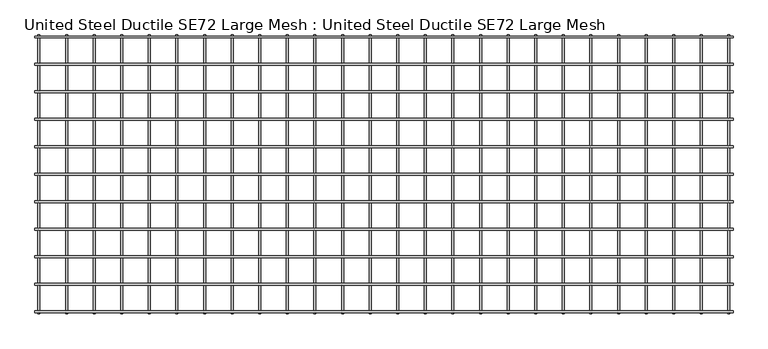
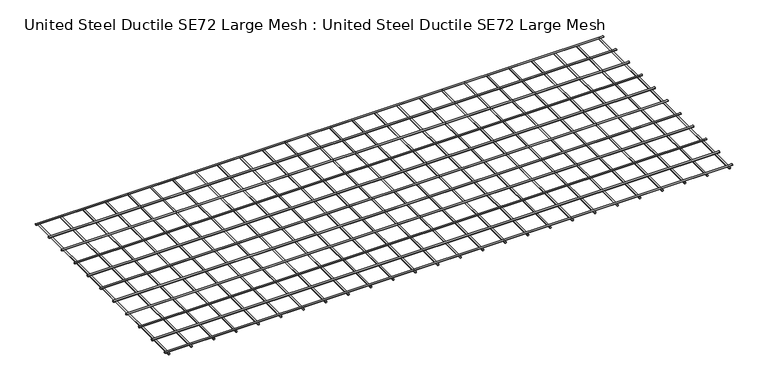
"""IFC4 building model written with IfcOpenShell, lengths in millimetres: proxy geometry, United Steel Ductile SE72 Large Mesh : United Steel Ductile SE72 Large Mesh."""

from ifc_helpers import new_model, si_unit, point, frame, frame_2d, origin, place, context, project, spatial, circle_curve, trimmed, segment, composite_curve, outline, extrude, source, transform, mapped, element, save


def united_steel_ductile_se72_large_mesh_united_steel_ductile_2a34dac6(model_context):
    return source(origin(), model_context, "Body", "SweptSolid", [
        extrude(outline(composite_curve([segment(trimmed(circle_curve(frame_2d((-2410.0, 20.9675855)), 7.0), [point((-2417.0, 20.9675855))], [point((-2403.0, 20.9675855))], False, "CARTESIAN"), True, "CONTINUOUS"), segment(trimmed(circle_curve(frame_2d((-2410.0, 20.9675855)), 7.0), [point((-2403.0, 20.9675855))], [point((-2417.0, 20.9675855))], False, "CARTESIAN"), True, "CONTINUOUS")], self_intersect=False)), frame((-6030.0, 0.0, 0.0), z_axis=(1.0, 0.0, 0.0), x_axis=(0.0, 1.0, 0.0)), (0.0, 0.0, 1.0), 5060.0),
        extrude(outline(composite_curve([segment(trimmed(circle_curve(frame_2d((-2211.0, 20.9675855)), 7.0), [point((-2218.0, 20.9675855))], [point((-2204.0, 20.9675855))], False, "CARTESIAN"), True, "CONTINUOUS"), segment(trimmed(circle_curve(frame_2d((-2211.0, 20.9675855)), 7.0), [point((-2204.0, 20.9675855))], [point((-2218.0, 20.9675855))], False, "CARTESIAN"), True, "CONTINUOUS")], self_intersect=False)), frame((-6030.0, 0.0, 0.0), z_axis=(1.0, 0.0, 0.0), x_axis=(0.0, 1.0, 0.0)), (0.0, 0.0, 1.0), 5060.0),
        extrude(outline(composite_curve([segment(trimmed(circle_curve(frame_2d((-2012.0, 20.9675855)), 7.0), [point((-2019.0, 20.9675855))], [point((-2005.0, 20.9675855))], False, "CARTESIAN"), True, "CONTINUOUS"), segment(trimmed(circle_curve(frame_2d((-2012.0, 20.9675855)), 7.0), [point((-2005.0, 20.9675855))], [point((-2019.0, 20.9675855))], False, "CARTESIAN"), True, "CONTINUOUS")], self_intersect=False)), frame((-6030.0, 0.0, 0.0), z_axis=(1.0, 0.0, 0.0), x_axis=(0.0, 1.0, 0.0)), (0.0, 0.0, 1.0), 5060.0),
        extrude(outline(composite_curve([segment(trimmed(circle_curve(frame_2d((-1813.0, 20.9675855)), 7.0), [point((-1820.0, 20.9675855))], [point((-1806.0, 20.9675855))], False, "CARTESIAN"), True, "CONTINUOUS"), segment(trimmed(circle_curve(frame_2d((-1813.0, 20.9675855)), 7.0), [point((-1806.0, 20.9675855))], [point((-1820.0, 20.9675855))], False, "CARTESIAN"), True, "CONTINUOUS")], self_intersect=False)), frame((-6030.0, 0.0, 0.0), z_axis=(1.0, 0.0, 0.0), x_axis=(0.0, 1.0, 0.0)), (0.0, 0.0, 1.0), 5060.0),
        extrude(outline(composite_curve([segment(trimmed(circle_curve(frame_2d((-1614.0, 20.9675855)), 7.0), [point((-1621.0, 20.9675855))], [point((-1607.0, 20.9675855))], False, "CARTESIAN"), True, "CONTINUOUS"), segment(trimmed(circle_curve(frame_2d((-1614.0, 20.9675855)), 7.0), [point((-1607.0, 20.9675855))], [point((-1621.0, 20.9675855))], False, "CARTESIAN"), True, "CONTINUOUS")], self_intersect=False)), frame((-6030.0, 0.0, 0.0), z_axis=(1.0, 0.0, 0.0), x_axis=(0.0, 1.0, 0.0)), (0.0, 0.0, 1.0), 5060.0),
        extrude(outline(composite_curve([segment(trimmed(circle_curve(frame_2d((-1415.0, 20.9675855)), 7.0), [point((-1422.0, 20.9675855))], [point((-1408.0, 20.9675855))], False, "CARTESIAN"), True, "CONTINUOUS"), segment(trimmed(circle_curve(frame_2d((-1415.0, 20.9675855)), 7.0), [point((-1408.0, 20.9675855))], [point((-1422.0, 20.9675855))], False, "CARTESIAN"), True, "CONTINUOUS")], self_intersect=False)), frame((-6030.0, 0.0, 0.0), z_axis=(1.0, 0.0, 0.0), x_axis=(0.0, 1.0, 0.0)), (0.0, 0.0, 1.0), 5060.0),
        extrude(outline(composite_curve([segment(trimmed(circle_curve(frame_2d((-1216.0, 20.9675855)), 7.0), [point((-1223.0, 20.9675855))], [point((-1209.0, 20.9675855))], False, "CARTESIAN"), True, "CONTINUOUS"), segment(trimmed(circle_curve(frame_2d((-1216.0, 20.9675855)), 7.0), [point((-1209.0, 20.9675855))], [point((-1223.0, 20.9675855))], False, "CARTESIAN"), True, "CONTINUOUS")], self_intersect=False)), frame((-6030.0, 0.0, 0.0), z_axis=(1.0, 0.0, 0.0), x_axis=(0.0, 1.0, 0.0)), (0.0, 0.0, 1.0), 5060.0),
        extrude(outline(composite_curve([segment(trimmed(circle_curve(frame_2d((-1017.0, 20.9675855)), 7.0), [point((-1024.0, 20.9675855))], [point((-1010.0, 20.9675855))], False, "CARTESIAN"), True, "CONTINUOUS"), segment(trimmed(circle_curve(frame_2d((-1017.0, 20.9675855)), 7.0), [point((-1010.0, 20.9675855))], [point((-1024.0, 20.9675855))], False, "CARTESIAN"), True, "CONTINUOUS")], self_intersect=False)), frame((-6030.0, 0.0, 0.0), z_axis=(1.0, 0.0, 0.0), x_axis=(0.0, 1.0, 0.0)), (0.0, 0.0, 1.0), 5060.0),
        extrude(outline(composite_curve([segment(trimmed(circle_curve(frame_2d((-818.0, 20.9675855)), 7.0), [point((-825.0, 20.9675855))], [point((-811.0, 20.9675855))], False, "CARTESIAN"), True, "CONTINUOUS"), segment(trimmed(circle_curve(frame_2d((-818.0, 20.9675855)), 7.0), [point((-811.0, 20.9675855))], [point((-825.0, 20.9675855))], False, "CARTESIAN"), True, "CONTINUOUS")], self_intersect=False)), frame((-6030.0, 0.0, 0.0), z_axis=(1.0, 0.0, 0.0), x_axis=(0.0, 1.0, 0.0)), (0.0, 0.0, 1.0), 5060.0),
        extrude(outline(composite_curve([segment(trimmed(circle_curve(frame_2d((-619.0, 20.9675855)), 7.0), [point((-626.0, 20.9675855))], [point((-612.0, 20.9675855))], False, "CARTESIAN"), True, "CONTINUOUS"), segment(trimmed(circle_curve(frame_2d((-619.0, 20.9675855)), 7.0), [point((-612.0, 20.9675855))], [point((-626.0, 20.9675855))], False, "CARTESIAN"), True, "CONTINUOUS")], self_intersect=False)), frame((-6030.0, 0.0, 0.0), z_axis=(1.0, 0.0, 0.0), x_axis=(0.0, 1.0, 0.0)), (0.0, 0.0, 1.0), 5060.0),
        extrude(outline(composite_curve([segment(trimmed(circle_curve(frame_2d((6.9833072, -6000.6447114)), 7.0), [point((6.9833072, -6007.6447114))], [point((6.9833072, -5993.6447114))], False, "CARTESIAN"), True, "CONTINUOUS"), segment(trimmed(circle_curve(frame_2d((6.9833072, -6000.6447114)), 7.0), [point((6.9833072, -5993.6447114))], [point((6.9833072, -6007.6447114))], False, "CARTESIAN"), True, "CONTINUOUS")], self_intersect=False)), frame((0.0, -2425.0, 0.0), z_axis=(0.0, 1.0, 0.0), x_axis=(0.0, 0.0, 1.0)), (0.0, 0.0, 1.0), 2020.0),
        extrude(outline(composite_curve([segment(trimmed(circle_curve(frame_2d((6.9833072, -5800.6178484)), 7.0), [point((6.9833072, -5807.6178484))], [point((6.9833072, -5793.6178484))], False, "CARTESIAN"), True, "CONTINUOUS"), segment(trimmed(circle_curve(frame_2d((6.9833072, -5800.6178484)), 7.0), [point((6.9833072, -5793.6178484))], [point((6.9833072, -5807.6178484))], False, "CARTESIAN"), True, "CONTINUOUS")], self_intersect=False)), frame((0.0, -2425.0, 0.0), z_axis=(0.0, 1.0, 0.0), x_axis=(0.0, 0.0, 1.0)), (0.0, 0.0, 1.0), 2020.0),
        extrude(outline(composite_curve([segment(trimmed(circle_curve(frame_2d((6.9833072, -5600.5909854)), 7.0), [point((6.9833072, -5607.5909854))], [point((6.9833072, -5593.5909854))], False, "CARTESIAN"), True, "CONTINUOUS"), segment(trimmed(circle_curve(frame_2d((6.9833072, -5600.5909854)), 7.0), [point((6.9833072, -5593.5909854))], [point((6.9833072, -5607.5909854))], False, "CARTESIAN"), True, "CONTINUOUS")], self_intersect=False)), frame((0.0, -2425.0, 0.0), z_axis=(0.0, 1.0, 0.0), x_axis=(0.0, 0.0, 1.0)), (0.0, 0.0, 1.0), 2020.0),
        extrude(outline(composite_curve([segment(trimmed(circle_curve(frame_2d((6.9833072, -5400.5641224)), 7.0), [point((6.9833072, -5407.5641224))], [point((6.9833072, -5393.5641224))], False, "CARTESIAN"), True, "CONTINUOUS"), segment(trimmed(circle_curve(frame_2d((6.9833072, -5400.5641224)), 7.0), [point((6.9833072, -5393.5641224))], [point((6.9833072, -5407.5641224))], False, "CARTESIAN"), True, "CONTINUOUS")], self_intersect=False)), frame((0.0, -2425.0, 0.0), z_axis=(0.0, 1.0, 0.0), x_axis=(0.0, 0.0, 1.0)), (0.0, 0.0, 1.0), 2020.0),
        extrude(outline(composite_curve([segment(trimmed(circle_curve(frame_2d((6.9833072, -5200.5372595)), 7.0), [point((6.9833072, -5207.5372595))], [point((6.9833072, -5193.5372595))], False, "CARTESIAN"), True, "CONTINUOUS"), segment(trimmed(circle_curve(frame_2d((6.9833072, -5200.5372595)), 7.0), [point((6.9833072, -5193.5372595))], [point((6.9833072, -5207.5372595))], False, "CARTESIAN"), True, "CONTINUOUS")], self_intersect=False)), frame((0.0, -2425.0, 0.0), z_axis=(0.0, 1.0, 0.0), x_axis=(0.0, 0.0, 1.0)), (0.0, 0.0, 1.0), 2020.0),
        extrude(outline(composite_curve([segment(trimmed(circle_curve(frame_2d((6.9833072, -5000.5103965)), 7.0), [point((6.9833072, -5007.5103965))], [point((6.9833072, -4993.5103965))], False, "CARTESIAN"), True, "CONTINUOUS"), segment(trimmed(circle_curve(frame_2d((6.9833072, -5000.5103965)), 7.0), [point((6.9833072, -4993.5103965))], [point((6.9833072, -5007.5103965))], False, "CARTESIAN"), True, "CONTINUOUS")], self_intersect=False)), frame((0.0, -2425.0, 0.0), z_axis=(0.0, 1.0, 0.0), x_axis=(0.0, 0.0, 1.0)), (0.0, 0.0, 1.0), 2020.0),
        extrude(outline(composite_curve([segment(trimmed(circle_curve(frame_2d((6.9833072, -4800.4835335)), 7.0), [point((6.9833072, -4807.4835335))], [point((6.9833072, -4793.4835335))], False, "CARTESIAN"), True, "CONTINUOUS"), segment(trimmed(circle_curve(frame_2d((6.9833072, -4800.4835335)), 7.0), [point((6.9833072, -4793.4835335))], [point((6.9833072, -4807.4835335))], False, "CARTESIAN"), True, "CONTINUOUS")], self_intersect=False)), frame((0.0, -2425.0, 0.0), z_axis=(0.0, 1.0, 0.0), x_axis=(0.0, 0.0, 1.0)), (0.0, 0.0, 1.0), 2020.0),
        extrude(outline(composite_curve([segment(trimmed(circle_curve(frame_2d((6.9833072, -4600.4566705)), 7.0), [point((6.9833072, -4607.4566705))], [point((6.9833072, -4593.4566705))], False, "CARTESIAN"), True, "CONTINUOUS"), segment(trimmed(circle_curve(frame_2d((6.9833072, -4600.4566705)), 7.0), [point((6.9833072, -4593.4566705))], [point((6.9833072, -4607.4566705))], False, "CARTESIAN"), True, "CONTINUOUS")], self_intersect=False)), frame((0.0, -2425.0, 0.0), z_axis=(0.0, 1.0, 0.0), x_axis=(0.0, 0.0, 1.0)), (0.0, 0.0, 1.0), 2020.0),
        extrude(outline(composite_curve([segment(trimmed(circle_curve(frame_2d((6.9833072, -4400.4298076)), 7.0), [point((6.9833072, -4407.4298076))], [point((6.9833072, -4393.4298076))], False, "CARTESIAN"), True, "CONTINUOUS"), segment(trimmed(circle_curve(frame_2d((6.9833072, -4400.4298076)), 7.0), [point((6.9833072, -4393.4298076))], [point((6.9833072, -4407.4298076))], False, "CARTESIAN"), True, "CONTINUOUS")], self_intersect=False)), frame((0.0, -2425.0, 0.0), z_axis=(0.0, 1.0, 0.0), x_axis=(0.0, 0.0, 1.0)), (0.0, 0.0, 1.0), 2020.0),
        extrude(outline(composite_curve([segment(trimmed(circle_curve(frame_2d((6.9833072, -4200.4029446)), 7.0), [point((6.9833072, -4207.4029446))], [point((6.9833072, -4193.4029446))], False, "CARTESIAN"), True, "CONTINUOUS"), segment(trimmed(circle_curve(frame_2d((6.9833072, -4200.4029446)), 7.0), [point((6.9833072, -4193.4029446))], [point((6.9833072, -4207.4029446))], False, "CARTESIAN"), True, "CONTINUOUS")], self_intersect=False)), frame((0.0, -2425.0, 0.0), z_axis=(0.0, 1.0, 0.0), x_axis=(0.0, 0.0, 1.0)), (0.0, 0.0, 1.0), 2020.0),
        extrude(outline(composite_curve([segment(trimmed(circle_curve(frame_2d((6.9833072, -4000.3760816)), 7.0), [point((6.9833072, -4007.3760816))], [point((6.9833072, -3993.3760816))], False, "CARTESIAN"), True, "CONTINUOUS"), segment(trimmed(circle_curve(frame_2d((6.9833072, -4000.3760816)), 7.0), [point((6.9833072, -3993.3760816))], [point((6.9833072, -4007.3760816))], False, "CARTESIAN"), True, "CONTINUOUS")], self_intersect=False)), frame((0.0, -2425.0, 0.0), z_axis=(0.0, 1.0, 0.0), x_axis=(0.0, 0.0, 1.0)), (0.0, 0.0, 1.0), 2020.0),
        extrude(outline(composite_curve([segment(trimmed(circle_curve(frame_2d((6.9833072, -3800.3492187)), 7.0), [point((6.9833072, -3807.3492187))], [point((6.9833072, -3793.3492187))], False, "CARTESIAN"), True, "CONTINUOUS"), segment(trimmed(circle_curve(frame_2d((6.9833072, -3800.3492187)), 7.0), [point((6.9833072, -3793.3492187))], [point((6.9833072, -3807.3492187))], False, "CARTESIAN"), True, "CONTINUOUS")], self_intersect=False)), frame((0.0, -2425.0, 0.0), z_axis=(0.0, 1.0, 0.0), x_axis=(0.0, 0.0, 1.0)), (0.0, 0.0, 1.0), 2020.0),
        extrude(outline(composite_curve([segment(trimmed(circle_curve(frame_2d((6.9833072, -3600.3223557)), 7.0), [point((6.9833072, -3607.3223557))], [point((6.9833072, -3593.3223557))], False, "CARTESIAN"), True, "CONTINUOUS"), segment(trimmed(circle_curve(frame_2d((6.9833072, -3600.3223557)), 7.0), [point((6.9833072, -3593.3223557))], [point((6.9833072, -3607.3223557))], False, "CARTESIAN"), True, "CONTINUOUS")], self_intersect=False)), frame((0.0, -2425.0, 0.0), z_axis=(0.0, 1.0, 0.0), x_axis=(0.0, 0.0, 1.0)), (0.0, 0.0, 1.0), 2020.0),
        extrude(outline(composite_curve([segment(trimmed(circle_curve(frame_2d((6.9833072, -3400.2954927)), 7.0), [point((6.9833072, -3407.2954927))], [point((6.9833072, -3393.2954927))], False, "CARTESIAN"), True, "CONTINUOUS"), segment(trimmed(circle_curve(frame_2d((6.9833072, -3400.2954927)), 7.0), [point((6.9833072, -3393.2954927))], [point((6.9833072, -3407.2954927))], False, "CARTESIAN"), True, "CONTINUOUS")], self_intersect=False)), frame((0.0, -2425.0, 0.0), z_axis=(0.0, 1.0, 0.0), x_axis=(0.0, 0.0, 1.0)), (0.0, 0.0, 1.0), 2020.0),
        extrude(outline(composite_curve([segment(trimmed(circle_curve(frame_2d((6.9833072, -3200.2686297)), 7.0), [point((6.9833072, -3207.2686297))], [point((6.9833072, -3193.2686297))], False, "CARTESIAN"), True, "CONTINUOUS"), segment(trimmed(circle_curve(frame_2d((6.9833072, -3200.2686297)), 7.0), [point((6.9833072, -3193.2686297))], [point((6.9833072, -3207.2686297))], False, "CARTESIAN"), True, "CONTINUOUS")], self_intersect=False)), frame((0.0, -2425.0, 0.0), z_axis=(0.0, 1.0, 0.0), x_axis=(0.0, 0.0, 1.0)), (0.0, 0.0, 1.0), 2020.0),
        extrude(outline(composite_curve([segment(trimmed(circle_curve(frame_2d((6.9833072, -3000.2417668)), 7.0), [point((6.9833072, -3007.2417668))], [point((6.9833072, -2993.2417668))], False, "CARTESIAN"), True, "CONTINUOUS"), segment(trimmed(circle_curve(frame_2d((6.9833072, -3000.2417668)), 7.0), [point((6.9833072, -2993.2417668))], [point((6.9833072, -3007.2417668))], False, "CARTESIAN"), True, "CONTINUOUS")], self_intersect=False)), frame((0.0, -2425.0, 0.0), z_axis=(0.0, 1.0, 0.0), x_axis=(0.0, 0.0, 1.0)), (0.0, 0.0, 1.0), 2020.0),
        extrude(outline(composite_curve([segment(trimmed(circle_curve(frame_2d((6.9833072, -2800.2149038)), 7.0), [point((6.9833072, -2807.2149038))], [point((6.9833072, -2793.2149038))], False, "CARTESIAN"), True, "CONTINUOUS"), segment(trimmed(circle_curve(frame_2d((6.9833072, -2800.2149038)), 7.0), [point((6.9833072, -2793.2149038))], [point((6.9833072, -2807.2149038))], False, "CARTESIAN"), True, "CONTINUOUS")], self_intersect=False)), frame((0.0, -2425.0, 0.0), z_axis=(0.0, 1.0, 0.0), x_axis=(0.0, 0.0, 1.0)), (0.0, 0.0, 1.0), 2020.0),
        extrude(outline(composite_curve([segment(trimmed(circle_curve(frame_2d((6.9833072, -2600.1880408)), 7.0), [point((6.9833072, -2607.1880408))], [point((6.9833072, -2593.1880408))], False, "CARTESIAN"), True, "CONTINUOUS"), segment(trimmed(circle_curve(frame_2d((6.9833072, -2600.1880408)), 7.0), [point((6.9833072, -2593.1880408))], [point((6.9833072, -2607.1880408))], False, "CARTESIAN"), True, "CONTINUOUS")], self_intersect=False)), frame((0.0, -2425.0, 0.0), z_axis=(0.0, 1.0, 0.0), x_axis=(0.0, 0.0, 1.0)), (0.0, 0.0, 1.0), 2020.0),
        extrude(outline(composite_curve([segment(trimmed(circle_curve(frame_2d((6.9833072, -2400.1611778)), 7.0), [point((6.9833072, -2407.1611778))], [point((6.9833072, -2393.1611778))], False, "CARTESIAN"), True, "CONTINUOUS"), segment(trimmed(circle_curve(frame_2d((6.9833072, -2400.1611778)), 7.0), [point((6.9833072, -2393.1611778))], [point((6.9833072, -2407.1611778))], False, "CARTESIAN"), True, "CONTINUOUS")], self_intersect=False)), frame((0.0, -2425.0, 0.0), z_axis=(0.0, 1.0, 0.0), x_axis=(0.0, 0.0, 1.0)), (0.0, 0.0, 1.0), 2020.0),
        extrude(outline(composite_curve([segment(trimmed(circle_curve(frame_2d((6.9833072, -2200.1343149)), 7.0), [point((6.9833072, -2207.1343149))], [point((6.9833072, -2193.1343149))], False, "CARTESIAN"), True, "CONTINUOUS"), segment(trimmed(circle_curve(frame_2d((6.9833072, -2200.1343149)), 7.0), [point((6.9833072, -2193.1343149))], [point((6.9833072, -2207.1343149))], False, "CARTESIAN"), True, "CONTINUOUS")], self_intersect=False)), frame((0.0, -2425.0, 0.0), z_axis=(0.0, 1.0, 0.0), x_axis=(0.0, 0.0, 1.0)), (0.0, 0.0, 1.0), 2020.0),
        extrude(outline(composite_curve([segment(trimmed(circle_curve(frame_2d((6.9833072, -2000.1074519)), 7.0), [point((6.9833072, -2007.1074519))], [point((6.9833072, -1993.1074519))], False, "CARTESIAN"), True, "CONTINUOUS"), segment(trimmed(circle_curve(frame_2d((6.9833072, -2000.1074519)), 7.0), [point((6.9833072, -1993.1074519))], [point((6.9833072, -2007.1074519))], False, "CARTESIAN"), True, "CONTINUOUS")], self_intersect=False)), frame((0.0, -2425.0, 0.0), z_axis=(0.0, 1.0, 0.0), x_axis=(0.0, 0.0, 1.0)), (0.0, 0.0, 1.0), 2020.0),
        extrude(outline(composite_curve([segment(trimmed(circle_curve(frame_2d((6.9833072, -1800.0805889)), 7.0), [point((6.9833072, -1807.0805889))], [point((6.9833072, -1793.0805889))], False, "CARTESIAN"), True, "CONTINUOUS"), segment(trimmed(circle_curve(frame_2d((6.9833072, -1800.0805889)), 7.0), [point((6.9833072, -1793.0805889))], [point((6.9833072, -1807.0805889))], False, "CARTESIAN"), True, "CONTINUOUS")], self_intersect=False)), frame((0.0, -2425.0, 0.0), z_axis=(0.0, 1.0, 0.0), x_axis=(0.0, 0.0, 1.0)), (0.0, 0.0, 1.0), 2020.0),
        extrude(outline(composite_curve([segment(trimmed(circle_curve(frame_2d((6.9833072, -1600.0537259)), 7.0), [point((6.9833072, -1607.0537259))], [point((6.9833072, -1593.0537259))], False, "CARTESIAN"), True, "CONTINUOUS"), segment(trimmed(circle_curve(frame_2d((6.9833072, -1600.0537259)), 7.0), [point((6.9833072, -1593.0537259))], [point((6.9833072, -1607.0537259))], False, "CARTESIAN"), True, "CONTINUOUS")], self_intersect=False)), frame((0.0, -2425.0, 0.0), z_axis=(0.0, 1.0, 0.0), x_axis=(0.0, 0.0, 1.0)), (0.0, 0.0, 1.0), 2020.0),
        extrude(outline(composite_curve([segment(trimmed(circle_curve(frame_2d((6.9833072, -1400.026863)), 7.0), [point((6.9833072, -1407.026863))], [point((6.9833072, -1393.026863))], False, "CARTESIAN"), True, "CONTINUOUS"), segment(trimmed(circle_curve(frame_2d((6.9833072, -1400.026863)), 7.0), [point((6.9833072, -1393.026863))], [point((6.9833072, -1407.026863))], False, "CARTESIAN"), True, "CONTINUOUS")], self_intersect=False)), frame((0.0, -2425.0, 0.0), z_axis=(0.0, 1.0, 0.0), x_axis=(0.0, 0.0, 1.0)), (0.0, 0.0, 1.0), 2020.0),
        extrude(outline(composite_curve([segment(trimmed(circle_curve(frame_2d((6.9833072, -1200.0)), 7.0), [point((6.9833072, -1207.0))], [point((6.9833072, -1193.0))], False, "CARTESIAN"), True, "CONTINUOUS"), segment(trimmed(circle_curve(frame_2d((6.9833072, -1200.0)), 7.0), [point((6.9833072, -1193.0))], [point((6.9833072, -1207.0))], False, "CARTESIAN"), True, "CONTINUOUS")], self_intersect=False)), frame((0.0, -2425.0, 0.0), z_axis=(0.0, 1.0, 0.0), x_axis=(0.0, 0.0, 1.0)), (0.0, 0.0, 1.0), 2020.0),
        extrude(outline(composite_curve([segment(trimmed(circle_curve(frame_2d((-420.0, 20.9675855)), 7.0), [point((-427.0, 20.9675855))], [point((-413.0, 20.9675855))], False, "CARTESIAN"), True, "CONTINUOUS"), segment(trimmed(circle_curve(frame_2d((-420.0, 20.9675855)), 7.0), [point((-413.0, 20.9675855))], [point((-427.0, 20.9675855))], False, "CARTESIAN"), True, "CONTINUOUS")], self_intersect=False)), frame((-6030.0, 0.0, 0.0), z_axis=(1.0, 0.0, 0.0), x_axis=(0.0, 1.0, 0.0)), (0.0, 0.0, 1.0), 5060.0),
        extrude(outline(composite_curve([segment(trimmed(circle_curve(frame_2d((6.9833072, -999.973137)), 7.0), [point((6.9833072, -1006.973137))], [point((6.9833072, -992.973137))], False, "CARTESIAN"), True, "CONTINUOUS"), segment(trimmed(circle_curve(frame_2d((6.9833072, -999.973137)), 7.0), [point((6.9833072, -992.973137))], [point((6.9833072, -1006.973137))], False, "CARTESIAN"), True, "CONTINUOUS")], self_intersect=False)), frame((0.0, -2425.0, 0.0), z_axis=(0.0, 1.0, 0.0), x_axis=(0.0, 0.0, 1.0)), (0.0, 0.0, 1.0), 2020.0),
    ])


if __name__ == "__main__":
    model = new_model("IFC4")
    model_context = context("Model", 3, world=origin())
    ifc_project = project(units=[si_unit("LENGTHUNIT", "METRE", prefix="MILLI")], contexts=[model_context])
    site = spatial("IfcSite", under=ifc_project)
    building = spatial("IfcBuilding", under=site)
    placement = place(None, origin())
    united_steel_ductile_se72_large_mesh_united_steel_ductile_shape = united_steel_ductile_se72_large_mesh_united_steel_ductile_2a34dac6(model_context)
    element("IfcBuildingElementProxy", 1, Name="United Steel Ductile SE72 Large Mesh : United Steel Ductile SE72 Large Mesh", ObjectType="United Steel Ductile SE72 Large Mesh : United Steel Ductile SE72 Large Mesh", at=placement, inside=building, context=model_context, shape_type="MappedRepresentation", body=[
        mapped(united_steel_ductile_se72_large_mesh_united_steel_ductile_shape, transform((0.0, 0.0, 0.0), x_axis=(1.0, 0.0, 0.0), y_axis=(0.0, 1.0, 0.0), z_axis=(0.0, 0.0, 1.0))),
    ])
    save(model, "model.ifc")
